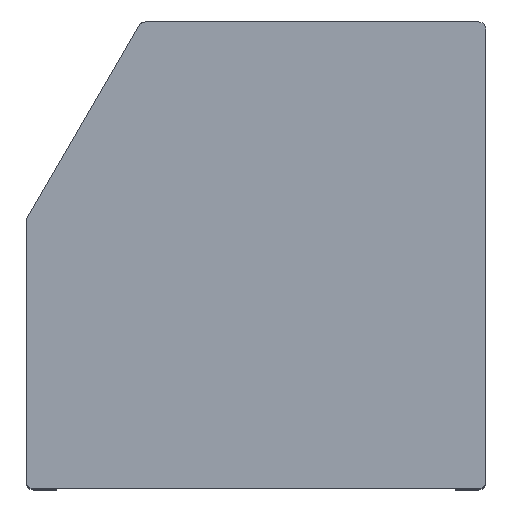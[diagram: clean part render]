
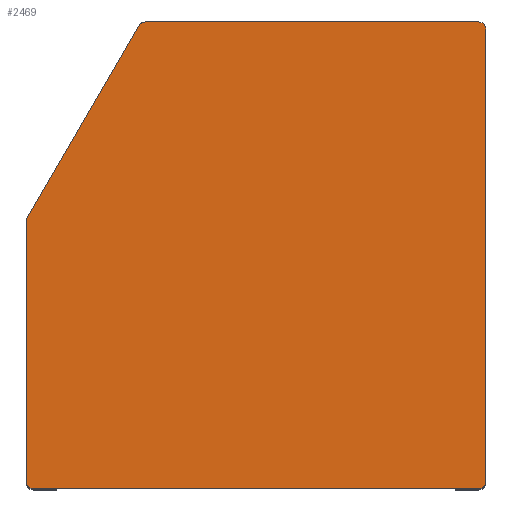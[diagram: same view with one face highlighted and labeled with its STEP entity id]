
A CAD part, top view. The second image highlights one B-rep face of the part: STEP entity #2469.
In plain terms, the highlighted planar face has unit normal (0, 0, 1).
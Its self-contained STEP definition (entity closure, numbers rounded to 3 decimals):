
#306=DIRECTION('',(-1.,0.,0.));
#307=VECTOR('',#306,12.4);
#308=CARTESIAN_POINT('',(-0.2,0.,22.));
#309=LINE('',#308,#307);
#310=CARTESIAN_POINT('',(-12.6,0.2,22.));
#311=DIRECTION('',(0.,0.,-1.));
#312=DIRECTION('',(0.,-1.,0.));
#313=AXIS2_PLACEMENT_3D('',#310,#311,#312);
#315=DIRECTION('',(0.,1.,0.));
#316=VECTOR('',#315,7.246);
#317=CARTESIAN_POINT('',(-12.8,0.2,22.));
#318=LINE('',#317,#316);
#319=CARTESIAN_POINT('',(-12.6,7.446,22.));
#320=DIRECTION('',(0.,0.,-1.));
#321=DIRECTION('',(-1.,0.,0.));
#322=AXIS2_PLACEMENT_3D('',#319,#320,#321);
#324=DIRECTION('',(0.503,0.864,0.));
#325=VECTOR('',#324,6.194);
#326=CARTESIAN_POINT('',(-12.773,7.547,22.));
#327=LINE('',#326,#325);
#328=CARTESIAN_POINT('',(-9.658,12.901,22.));
#329=CARTESIAN_POINT('',(-9.646,12.921,22.));
#330=CARTESIAN_POINT('',(-9.616,12.956,22.));
#331=CARTESIAN_POINT('',(-9.553,12.992,22.));
#332=CARTESIAN_POINT('',(-9.509,13.,22.));
#333=CARTESIAN_POINT('',(-9.485,13.,22.));
#335=DIRECTION('',(1.,0.,0.));
#336=VECTOR('',#335,9.285);
#337=CARTESIAN_POINT('',(-9.485,13.,22.));
#338=LINE('',#337,#336);
#339=CARTESIAN_POINT('',(-0.2,12.8,22.));
#340=DIRECTION('',(0.,0.,-1.));
#341=DIRECTION('',(0.,1.,0.));
#342=AXIS2_PLACEMENT_3D('',#339,#340,#341);
#344=DIRECTION('',(0.,-1.,0.));
#345=VECTOR('',#344,12.6);
#346=CARTESIAN_POINT('',(0.,12.8,22.));
#347=LINE('',#346,#345);
#348=CARTESIAN_POINT('',(-0.2,0.2,22.));
#349=DIRECTION('',(0.,0.,-1.));
#350=DIRECTION('',(1.,0.,0.));
#351=AXIS2_PLACEMENT_3D('',#348,#349,#350);
#1622=CARTESIAN_POINT('',(-12.8,7.446,22.));
#1624=VERTEX_POINT('',#1622);
#1626=CARTESIAN_POINT('',(-12.8,0.2,22.));
#1627=VERTEX_POINT('',#1626);
#1667=CARTESIAN_POINT('',(-12.773,7.547,22.));
#1669=VERTEX_POINT('',#1667);
#1670=CARTESIAN_POINT('',(-9.658,12.901,22.));
#1672=VERTEX_POINT('',#1670);
#1675=CARTESIAN_POINT('',(-9.485,13.,22.));
#1677=VERTEX_POINT('',#1675);
#1678=CARTESIAN_POINT('',(-0.2,13.,22.));
#1680=VERTEX_POINT('',#1678);
#1733=CARTESIAN_POINT('',(0.,12.8,22.));
#1735=VERTEX_POINT('',#1733);
#1736=CARTESIAN_POINT('',(0.,0.2,22.));
#1737=VERTEX_POINT('',#1736);
#1750=CARTESIAN_POINT('',(-0.2,0.,22.));
#1751=VERTEX_POINT('',#1750);
#1766=CARTESIAN_POINT('',(-12.6,0.,22.));
#1767=VERTEX_POINT('',#1766);
#2450=CARTESIAN_POINT('',(0.,0.,22.));
#2451=DIRECTION('',(0.,0.,1.));
#2452=DIRECTION('',(1.,0.,0.));
#2453=AXIS2_PLACEMENT_3D('',#2450,#2451,#2452);
#2454=PLANE('',#2453);
#2456=ORIENTED_EDGE('',*,*,#2455,.T.);
#2457=ORIENTED_EDGE('',*,*,#2231,.T.);
#2458=ORIENTED_EDGE('',*,*,#2245,.T.);
#2459=ORIENTED_EDGE('',*,*,#2317,.T.);
#2460=ORIENTED_EDGE('',*,*,#2332,.T.);
#2461=ORIENTED_EDGE('',*,*,#2347,.T.);
#2462=ORIENTED_EDGE('',*,*,#2362,.T.);
#2463=ORIENTED_EDGE('',*,*,#2442,.T.);
#2464=ORIENTED_EDGE('',*,*,#2076,.T.);
#2466=ORIENTED_EDGE('',*,*,#2465,.T.);
#2467=EDGE_LOOP('',(#2456,#2457,#2458,#2459,#2460,#2461,#2462,#2463,#2464,
#2466));
#2468=FACE_OUTER_BOUND('',#2467,.F.);
#2469=ADVANCED_FACE('',(#2468),#2454,.T.);
#314=CIRCLE('',#313,0.2);
#323=CIRCLE('',#322,0.2);
#334=B_SPLINE_CURVE_WITH_KNOTS('',3,(#328,#329,#330,#331,#332,#333),
.UNSPECIFIED.,.F.,.F.,(4,1,1,4),(0.,0.333,0.667,1.),
.UNSPECIFIED.);
#343=CIRCLE('',#342,0.2);
#352=CIRCLE('',#351,0.2);
#2076=EDGE_CURVE('',#1735,#1737,#347,.T.);
#2231=EDGE_CURVE('',#1767,#1627,#314,.T.);
#2245=EDGE_CURVE('',#1627,#1624,#318,.T.);
#2317=EDGE_CURVE('',#1624,#1669,#323,.T.);
#2332=EDGE_CURVE('',#1669,#1672,#327,.T.);
#2347=EDGE_CURVE('',#1672,#1677,#334,.T.);
#2362=EDGE_CURVE('',#1677,#1680,#338,.T.);
#2442=EDGE_CURVE('',#1680,#1735,#343,.T.);
#2455=EDGE_CURVE('',#1751,#1767,#309,.T.);
#2465=EDGE_CURVE('',#1737,#1751,#352,.T.);
